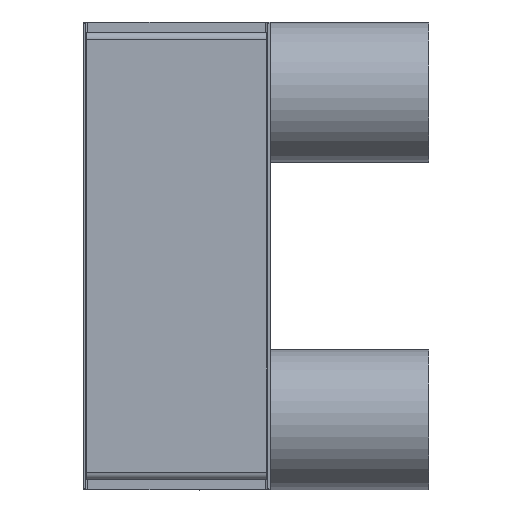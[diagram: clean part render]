
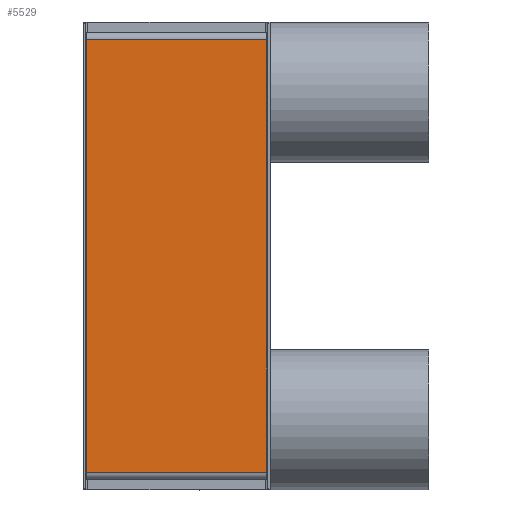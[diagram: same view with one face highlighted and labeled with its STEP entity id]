
A CAD part, top view. The second image highlights one B-rep face of the part: STEP entity #5529.
In plain terms, the highlighted planar face has unit normal (0, 0, 1).
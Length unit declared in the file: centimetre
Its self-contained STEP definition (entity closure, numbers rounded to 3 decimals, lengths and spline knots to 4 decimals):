
#344=PLANE('',#6165);
#668=FACE_OUTER_BOUND('',#1053,.T.);
#1053=EDGE_LOOP('',(#4734,#4735,#4736,#4737));
#1441=LINE('',#9523,#1840);
#1447=LINE('',#9543,#1846);
#1452=LINE('',#9559,#1851);
#1454=LINE('',#9562,#1853);
#1840=VECTOR('',#7706,1.);
#1846=VECTOR('',#7732,1.);
#1851=VECTOR('',#7755,1.);
#1853=VECTOR('',#7759,1.);
#2594=VERTEX_POINT('',#9520);
#2595=VERTEX_POINT('',#9522);
#2598=VERTEX_POINT('',#9540);
#2599=VERTEX_POINT('',#9542);
#3295=EDGE_CURVE('',#2595,#2594,#1441,.T.);
#3305=EDGE_CURVE('',#2599,#2598,#1447,.T.);
#3313=EDGE_CURVE('',#2595,#2598,#1452,.T.);
#3315=EDGE_CURVE('',#2599,#2594,#1454,.T.);
#4734=ORIENTED_EDGE('',*,*,#3315,.F.);
#4735=ORIENTED_EDGE('',*,*,#3305,.T.);
#4736=ORIENTED_EDGE('',*,*,#3313,.F.);
#4737=ORIENTED_EDGE('',*,*,#3295,.T.);
#5529=ADVANCED_FACE('',(#668),#344,.T.);
#6165=AXIS2_PLACEMENT_3D('',#9561,#7757,#7758);
#7706=DIRECTION('',(-1.,0.,0.));
#7732=DIRECTION('',(1.,0.,0.));
#7755=DIRECTION('',(0.,-1.,0.));
#7757=DIRECTION('center_axis',(0.,0.,
1.));
#7758=DIRECTION('ref_axis',(-1.,0.,0.));
#7759=DIRECTION('',(0.,1.,0.));
#9520=CARTESIAN_POINT('',(-3.85,9.25,0.15));
#9522=CARTESIAN_POINT('',(3.85,9.25,0.15));
#9523=CARTESIAN_POINT('',(1.925,9.25,0.15));
#9540=CARTESIAN_POINT('',(3.85,-9.25,0.15));
#9542=CARTESIAN_POINT('',(-3.85,-9.25,0.15));
#9543=CARTESIAN_POINT('',(-1.925,-9.25,0.15));
#9559=CARTESIAN_POINT('',(3.85,-9.55,0.15));
#9561=CARTESIAN_POINT('Origin',(0.,0.,
0.15));
#9562=CARTESIAN_POINT('',(-3.85,9.55,0.15));
